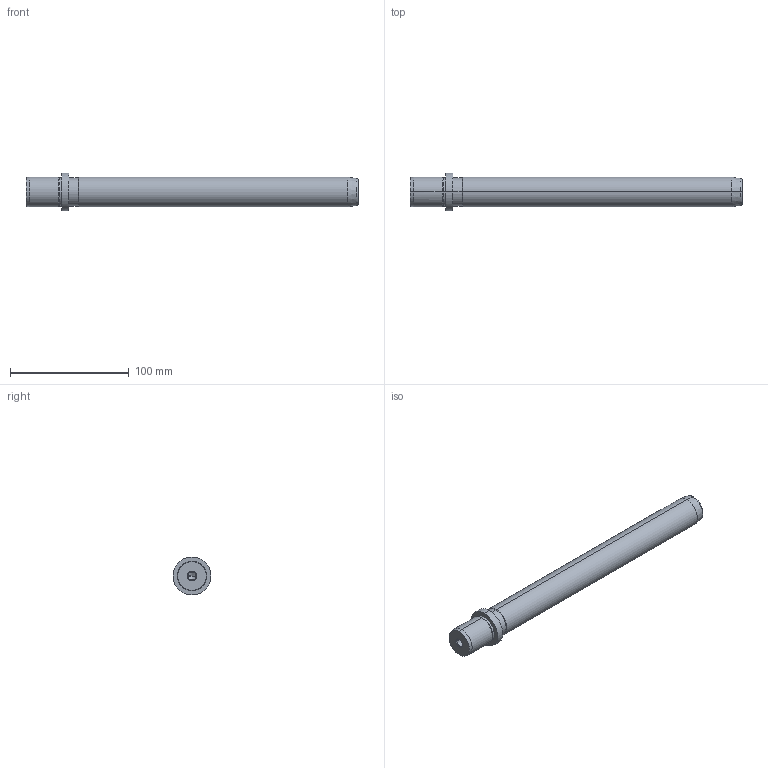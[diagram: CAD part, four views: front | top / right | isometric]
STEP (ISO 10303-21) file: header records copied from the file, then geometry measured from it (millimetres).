
FILE_DESCRIPTION(('CATIA V5 STEP Exchange'),'2;1');
FILE_NAME('C:\Users\Utente\Desktop\IO LAVORO\3D X SITO CF\X SITO\719\719-25x250.stp','2021-01-03T16:17:47+00:00',('none'),('none'),'CATIA Version 5 Release 20 GA (IN-10)','CATIA V5 STEP AP203','none');
FILE_SCHEMA(('CONFIG_CONTROL_DESIGN'));
Length unit declared in the file: millimetre
Products named in the file (1): 719-25x250
Bounding box: 280 x 32 x 32 mm (x, y, z)
Volume: 136747.5 mm3; surface area: 24627.5 mm2
Topology: 1 solids, 1 shells, 36 faces, 100 edges, 66 vertices
Faces by surface type: cone 16, cylinder 14, plane 4, torus 2
Entity records: 1270 total; most frequent: CARTESIAN_POINT 339, ORIENTED_EDGE 192, DIRECTION 158, EDGE_CURVE 96, AXIS2_PLACEMENT_3D 93, VERTEX_POINT 66, CIRCLE 56, EDGE_LOOP 40
